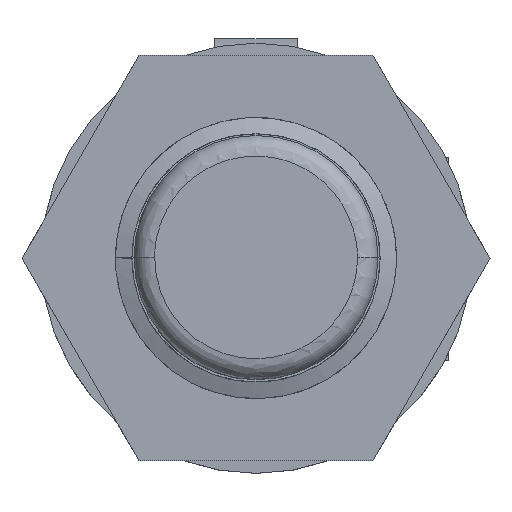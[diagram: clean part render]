
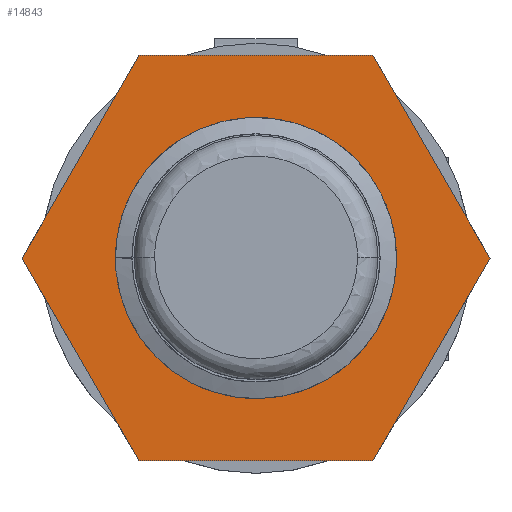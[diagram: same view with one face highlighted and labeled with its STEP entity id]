
A CAD part, top view. The second image highlights one B-rep face of the part: STEP entity #14843.
In plain terms, the highlighted free-form (B-spline) face has degree [3, 3] with [4, 4] control points.
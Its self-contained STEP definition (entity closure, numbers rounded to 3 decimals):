
#5025=CARTESIAN_POINT('',(2.973,0.4,4.));
#5026=CARTESIAN_POINT('',(3.01,0.237,4.));
#5027=CARTESIAN_POINT('',(3.051,-0.081,4.));
#5028=CARTESIAN_POINT('',(3.04,-0.556,4.));
#5029=CARTESIAN_POINT('',(2.964,-0.997,4.));
#5030=CARTESIAN_POINT('',(2.837,-1.399,4.));
#5031=CARTESIAN_POINT('',(2.667,-1.764,4.));
#5032=CARTESIAN_POINT('',(2.458,-2.096,4.));
#5033=CARTESIAN_POINT('',(2.213,-2.398,4.));
#5034=CARTESIAN_POINT('',(1.929,-2.67,4.));
#5035=CARTESIAN_POINT('',(1.615,-2.904,4.));
#5036=CARTESIAN_POINT('',(1.282,-3.095,4.));
#5037=CARTESIAN_POINT('',(0.944,-3.244,4.));
#5038=CARTESIAN_POINT('',(0.721,-3.315,4.));
#5039=CARTESIAN_POINT('',(0.612,-3.344,4.));
#5192=CARTESIAN_POINT('',(0.612,-3.344,4.));
#5197=CARTESIAN_POINT('',(0.612,-3.344,4.));
#5198=CARTESIAN_POINT('',(0.455,-3.36,4.));
#5199=CARTESIAN_POINT('',(0.141,-3.369,4.));
#5200=CARTESIAN_POINT('',(-0.315,-3.319,4.));
#5201=CARTESIAN_POINT('',(-0.765,-3.207,4.));
#5202=CARTESIAN_POINT('',(-1.206,-3.027,4.));
#5203=CARTESIAN_POINT('',(-1.617,-2.786,4.));
#5204=CARTESIAN_POINT('',(-1.953,-2.518,4.));
#5205=CARTESIAN_POINT('',(-2.229,-2.229,4.));
#5206=CARTESIAN_POINT('',(-2.457,-1.922,4.));
#5207=CARTESIAN_POINT('',(-2.652,-1.576,4.));
#5208=CARTESIAN_POINT('',(-2.808,-1.186,4.));
#5209=CARTESIAN_POINT('',(-2.875,-0.912,4.));
#5210=CARTESIAN_POINT('',(-2.899,-0.773,4.));
#5336=DIRECTION('',(0.5,0.866,0.));
#5337=VECTOR('',#5336,5.658);
#5338=CARTESIAN_POINT('',(2.829,-4.9,4.));
#5339=LINE('',#5338,#5337);
#5343=DIRECTION('',(0.5,-0.866,0.));
#5344=VECTOR('',#5343,5.658);
#5345=CARTESIAN_POINT('',(-5.658,0.,4.));
#5346=LINE('',#5345,#5344);
#5350=DIRECTION('',(-0.5,-0.866,0.));
#5351=VECTOR('',#5350,5.658);
#5352=CARTESIAN_POINT('',(-2.829,4.9,4.));
#5353=LINE('',#5352,#5351);
#5357=DIRECTION('',(-0.5,0.866,0.));
#5358=VECTOR('',#5357,5.658);
#5359=CARTESIAN_POINT('',(5.658,0.,4.));
#5360=LINE('',#5359,#5358);
#5378=DIRECTION('',(1.,0.,0.));
#5379=VECTOR('',#5378,5.658);
#5380=CARTESIAN_POINT('',(-2.829,-4.9,4.));
#5381=LINE('',#5380,#5379);
#5420=DIRECTION('',(-1.,0.,0.));
#5421=VECTOR('',#5420,5.658);
#5422=CARTESIAN_POINT('',(2.829,4.9,4.));
#5423=LINE('',#5422,#5421);
#5441=CARTESIAN_POINT('',(2.973,0.4,4.));
#5471=CARTESIAN_POINT('',(0.,0.,4.));
#5472=DIRECTION('',(0.,0.,-1.));
#5473=DIRECTION('',(-1.,0.,0.));
#5474=AXIS2_PLACEMENT_3D('',#5471,#5472,#5473);
#5503=CARTESIAN_POINT('',(-2.899,-0.773,4.));
#5508=CARTESIAN_POINT('',(0.,0.,4.));
#5509=DIRECTION('',(0.,0.,-1.));
#5510=DIRECTION('',(-0.966,-0.258,0.));
#5511=AXIS2_PLACEMENT_3D('',#5508,#5509,#5510);
#7984=CARTESIAN_POINT('',(2.829,-4.9,4.));
#7985=CARTESIAN_POINT('',(5.658,0.,4.));
#7986=VERTEX_POINT('',#7984);
#7987=VERTEX_POINT('',#7985);
#7988=CARTESIAN_POINT('',(-2.829,-4.9,4.));
#7989=VERTEX_POINT('',#7988);
#7990=CARTESIAN_POINT('',(-5.658,0.,4.));
#7991=VERTEX_POINT('',#7990);
#7992=CARTESIAN_POINT('',(-2.829,4.9,4.));
#7993=VERTEX_POINT('',#7992);
#7994=CARTESIAN_POINT('',(2.829,4.9,4.));
#7995=VERTEX_POINT('',#7994);
#8160=VERTEX_POINT('',#5192);
#8163=VERTEX_POINT('',#5441);
#8164=VERTEX_POINT('',#5503);
#8168=CARTESIAN_POINT('',(-3.,0.,4.));
#8169=VERTEX_POINT('',#8168);
#14806=CARTESIAN_POINT('',(5.884,5.096,4.));
#14807=CARTESIAN_POINT('',(5.884,1.699,4.));
#14808=CARTESIAN_POINT('',(5.884,-1.699,4.));
#14809=CARTESIAN_POINT('',(5.884,-5.096,4.));
#14810=CARTESIAN_POINT('',(1.961,5.096,4.));
#14811=CARTESIAN_POINT('',(1.961,1.699,4.));
#14812=CARTESIAN_POINT('',(1.961,-1.699,4.));
#14813=CARTESIAN_POINT('',(1.961,-5.096,4.));
#14814=CARTESIAN_POINT('',(-1.961,5.096,4.));
#14815=CARTESIAN_POINT('',(-1.961,1.699,4.));
#14816=CARTESIAN_POINT('',(-1.961,-1.699,4.));
#14817=CARTESIAN_POINT('',(-1.961,-5.096,4.));
#14818=CARTESIAN_POINT('',(-5.884,5.096,4.));
#14819=CARTESIAN_POINT('',(-5.884,1.699,4.));
#14820=CARTESIAN_POINT('',(-5.884,-1.699,4.));
#14821=CARTESIAN_POINT('',(-5.884,-5.096,4.));
#14822=B_SPLINE_SURFACE_WITH_KNOTS('',3,3,((#14806,#14807,#14808,#14809),
(#14810,#14811,#14812,#14813),(#14814,#14815,#14816,#14817),(#14818,#14819,
#14820,#14821)),.UNSPECIFIED.,.F.,.F.,.F.,(4,4),(4,4),(-5.884,
5.884),(-5.096,5.096),.UNSPECIFIED.);
#14823=ORIENTED_EDGE('',*,*,#8419,.F.);
#14825=ORIENTED_EDGE('',*,*,#14824,.F.);
#14826=ORIENTED_EDGE('',*,*,#8245,.F.);
#14828=ORIENTED_EDGE('',*,*,#14827,.F.);
#14830=ORIENTED_EDGE('',*,*,#14829,.F.);
#14832=ORIENTED_EDGE('',*,*,#14831,.F.);
#14833=EDGE_LOOP('',(#14823,#14825,#14826,#14828,#14830,#14832));
#14834=FACE_OUTER_BOUND('',#14833,.F.);
#14835=ORIENTED_EDGE('',*,*,#10165,.F.);
#14837=ORIENTED_EDGE('',*,*,#14836,.F.);
#14839=ORIENTED_EDGE('',*,*,#14838,.F.);
#14840=ORIENTED_EDGE('',*,*,#13247,.F.);
#14841=EDGE_LOOP('',(#14835,#14837,#14839,#14840));
#14842=FACE_BOUND('',#14841,.F.);
#5040=B_SPLINE_CURVE_WITH_KNOTS('',3,(#5025,#5026,#5027,#5028,#5029,#5030,#5031,
#5032,#5033,#5034,#5035,#5036,#5037,#5038,#5039),.UNSPECIFIED.,.F.,.F.,(4,1,1,1,
1,1,1,1,1,1,1,1,4),(0.,0.083,0.167,0.25,
0.333,0.417,0.5,0.583,0.667,
0.75,0.833,0.917,1.),.UNSPECIFIED.);
#5211=B_SPLINE_CURVE_WITH_KNOTS('',3,(#5197,#5198,#5199,#5200,#5201,#5202,#5203,
#5204,#5205,#5206,#5207,#5208,#5209,#5210),.UNSPECIFIED.,.F.,.F.,(4,1,1,1,1,1,1,
1,1,1,1,4),(0.,0.091,0.182,0.273,
0.364,0.455,0.545,0.636,
0.727,0.818,0.909,1.),.UNSPECIFIED.);
#5475=CIRCLE('',#5474,3.);
#5512=CIRCLE('',#5511,3.);
#8245=EDGE_CURVE('',#7991,#7989,#5346,.T.);
#8419=EDGE_CURVE('',#7986,#7987,#5339,.T.);
#10165=EDGE_CURVE('',#8163,#8160,#5040,.T.);
#13247=EDGE_CURVE('',#8160,#8164,#5211,.T.);
#14824=EDGE_CURVE('',#7989,#7986,#5381,.T.);
#14827=EDGE_CURVE('',#7993,#7991,#5353,.T.);
#14829=EDGE_CURVE('',#7995,#7993,#5423,.T.);
#14831=EDGE_CURVE('',#7987,#7995,#5360,.T.);
#14836=EDGE_CURVE('',#8169,#8163,#5475,.T.);
#14838=EDGE_CURVE('',#8164,#8169,#5512,.T.);
#14843=ADVANCED_FACE('',(#14834,#14842),#14822,.T.);
